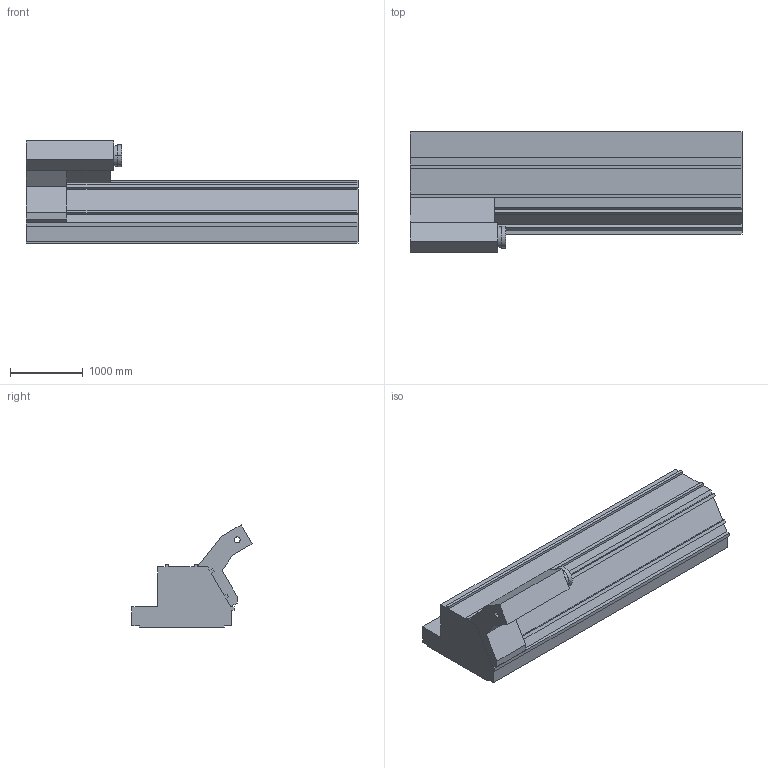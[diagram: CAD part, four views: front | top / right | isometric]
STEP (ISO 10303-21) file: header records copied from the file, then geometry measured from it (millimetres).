
FILE_DESCRIPTION(('CATIA V5 STEP Exchange'),'2;1');
FILE_NAME('D:\Clients_NCS8\Cenit-AG\Import\OKUMA250\bedplate.stp','2005-03-09T16:48:48+00:00',('none'),('none'),'CATIA Version 5 Release 14 (IN-10)','CATIA V5 STEP AP203','none');
FILE_SCHEMA(('CONFIG_CONTROL_DESIGN'));
Length unit declared in the file: millimetre
Products named in the file (1): okuma_dr-fr
Assembly tree (1 placements, depth 2):
  okuma_dr-fr
    #56
Bounding box: 4566 x 1652.9 x 1404.9 mm (x, y, z)
Volume: 4145879995.3 mm3; surface area: 25337448.9 mm2
Topology: 1 solids, 1 shells, 64 faces, 185 edges, 125 vertices
Faces by surface type: plane 58, cylinder 6
Entity records: 2067 total; most frequent: ORIENTED_EDGE 370, CARTESIAN_POINT 362, DIRECTION 289, EDGE_CURVE 185, VECTOR 173, LINE 173, VERTEX_POINT 125, EDGE_LOOP 68
